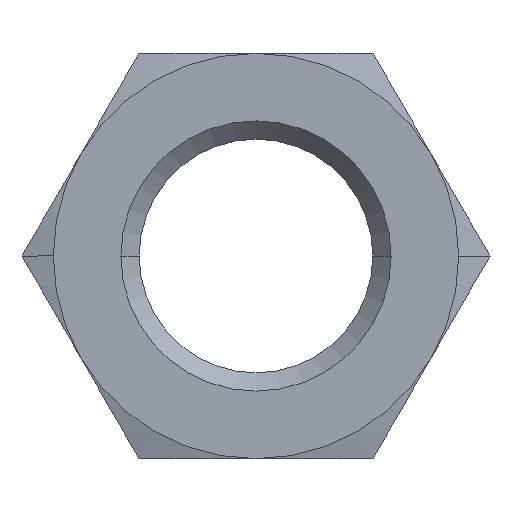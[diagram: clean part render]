
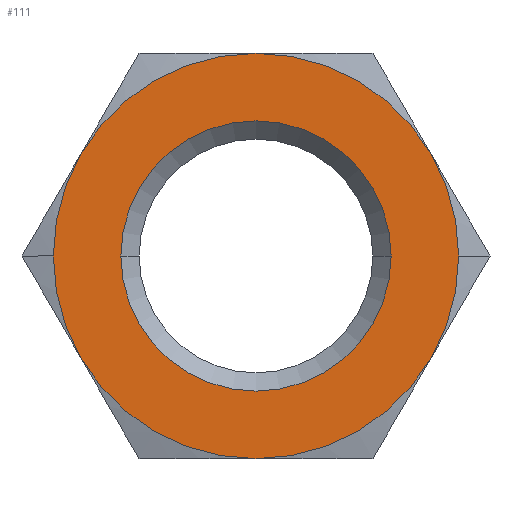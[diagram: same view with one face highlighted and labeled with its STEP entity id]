
A CAD part, left-side view. The second image highlights one B-rep face of the part: STEP entity #111.
In plain terms, the highlighted planar face has unit normal (-1, 0, 0).
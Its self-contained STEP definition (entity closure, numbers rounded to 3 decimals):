
#111=ADVANCED_FACE('',(#218,#219),#220,.T.);
#218=FACE_BOUND('',#318,.T.);
#219=FACE_OUTER_BOUND('',#319,.T.);
#220=PLANE('',#320);
#318=EDGE_LOOP('',(#553,#554));
#319=EDGE_LOOP('',(#555,#556,#557,#558,#559,#560,#561,#562));
#320=AXIS2_PLACEMENT_3D('',#563,#564,#565);
#553=ORIENTED_EDGE('',*,*,#667,.F.);
#554=ORIENTED_EDGE('',*,*,#579,.F.);
#555=ORIENTED_EDGE('',*,*,#647,.T.);
#556=ORIENTED_EDGE('',*,*,#599,.T.);
#557=ORIENTED_EDGE('',*,*,#637,.T.);
#558=ORIENTED_EDGE('',*,*,#639,.T.);
#559=ORIENTED_EDGE('',*,*,#602,.T.);
#560=ORIENTED_EDGE('',*,*,#641,.T.);
#561=ORIENTED_EDGE('',*,*,#643,.T.);
#562=ORIENTED_EDGE('',*,*,#645,.T.);
#563=CARTESIAN_POINT('',(0.,15.0,0.0));
#564=DIRECTION('',(-1.0,0.,0.0));
#565=DIRECTION('',(0.,1.0,0.0));
#579=EDGE_CURVE('',#676,#672,#678,.T.);
#599=EDGE_CURVE('',#707,#709,#711,.T.);
#602=EDGE_CURVE('',#716,#713,#717,.T.);
#637=EDGE_CURVE('',#709,#755,#768,.T.);
#639=EDGE_CURVE('',#755,#716,#770,.T.);
#641=EDGE_CURVE('',#713,#720,#772,.T.);
#643=EDGE_CURVE('',#720,#742,#774,.T.);
#645=EDGE_CURVE('',#742,#732,#776,.T.);
#647=EDGE_CURVE('',#732,#707,#778,.T.);
#667=EDGE_CURVE('',#672,#676,#798,.T.);
#672=VERTEX_POINT('',#803);
#676=VERTEX_POINT('',#808);
#678=CIRCLE('',#811,12.0);
#707=VERTEX_POINT('',#864);
#709=VERTEX_POINT('',#867);
#711=CIRCLE('',#878,18.0);
#713=VERTEX_POINT('',#880);
#716=VERTEX_POINT('',#884);
#717=CIRCLE('',#885,18.0);
#720=VERTEX_POINT('',#897);
#732=VERTEX_POINT('',#947);
#742=VERTEX_POINT('',#995);
#755=VERTEX_POINT('',#1063);
#768=CIRCLE('',#1131,18.0);
#770=CIRCLE('',#1133,18.0);
#772=CIRCLE('',#1135,18.0);
#774=CIRCLE('',#1137,18.0);
#776=CIRCLE('',#1139,18.0);
#778=CIRCLE('',#1141,18.0);
#798=CIRCLE('',#1161,12.0);
#803=CARTESIAN_POINT('',(0.,12.0,0.0));
#808=CARTESIAN_POINT('',(0.,-12.0,0.));
#811=AXIS2_PLACEMENT_3D('',#1169,#1170,#1171);
#864=CARTESIAN_POINT('',(0.,18.0,0.));
#867=CARTESIAN_POINT('',(0.,15.588,-9.0));
#878=AXIS2_PLACEMENT_3D('',#1191,#1192,#1193);
#880=CARTESIAN_POINT('',(0.,-18.0,0.));
#884=CARTESIAN_POINT('',(0.,-15.588,-9.0));
#885=AXIS2_PLACEMENT_3D('',#1195,#1196,#1197);
#897=CARTESIAN_POINT('',(0.,-15.588,9.0));
#947=CARTESIAN_POINT('',(0.,15.588,9.0));
#995=CARTESIAN_POINT('',(0.,0.,18.0));
#1063=CARTESIAN_POINT('',(0.,0.,-18.0));
#1131=AXIS2_PLACEMENT_3D('',#1204,#1205,#1206);
#1133=AXIS2_PLACEMENT_3D('',#1207,#1208,#1209);
#1135=AXIS2_PLACEMENT_3D('',#1210,#1211,#1212);
#1137=AXIS2_PLACEMENT_3D('',#1213,#1214,#1215);
#1139=AXIS2_PLACEMENT_3D('',#1216,#1217,#1218);
#1141=AXIS2_PLACEMENT_3D('',#1219,#1220,#1221);
#1161=AXIS2_PLACEMENT_3D('',#1249,#1250,#1251);
#1169=CARTESIAN_POINT('',(0.0,0.,0.0));
#1170=DIRECTION('',(-1.0,0.,0.0));
#1171=DIRECTION('',(0.,1.0,0.0));
#1191=CARTESIAN_POINT('',(0.,0.,0.0));
#1192=DIRECTION('',(-1.0,0.,0.0));
#1193=DIRECTION('',(0.,1.0,0.0));
#1195=CARTESIAN_POINT('',(0.,0.,0.0));
#1196=DIRECTION('',(-1.0,0.,0.0));
#1197=DIRECTION('',(0.,1.0,0.0));
#1204=CARTESIAN_POINT('',(0.,0.,0.0));
#1205=DIRECTION('',(-1.0,0.,0.0));
#1206=DIRECTION('',(0.,1.0,0.0));
#1207=CARTESIAN_POINT('',(0.,0.,0.0));
#1208=DIRECTION('',(-1.0,0.,0.0));
#1209=DIRECTION('',(0.,1.0,0.0));
#1210=CARTESIAN_POINT('',(0.,0.,0.0));
#1211=DIRECTION('',(-1.0,0.,0.0));
#1212=DIRECTION('',(0.,1.0,0.0));
#1213=CARTESIAN_POINT('',(0.,0.,0.0));
#1214=DIRECTION('',(-1.0,0.,0.0));
#1215=DIRECTION('',(0.,1.0,0.0));
#1216=CARTESIAN_POINT('',(0.,0.,0.0));
#1217=DIRECTION('',(-1.0,0.,0.0));
#1218=DIRECTION('',(0.,1.0,0.0));
#1219=CARTESIAN_POINT('',(0.,0.,0.0));
#1220=DIRECTION('',(-1.0,0.,0.0));
#1221=DIRECTION('',(0.,1.0,0.0));
#1249=CARTESIAN_POINT('',(0.0,0.,0.0));
#1250=DIRECTION('',(-1.0,0.,0.0));
#1251=DIRECTION('',(0.,1.0,0.0));
